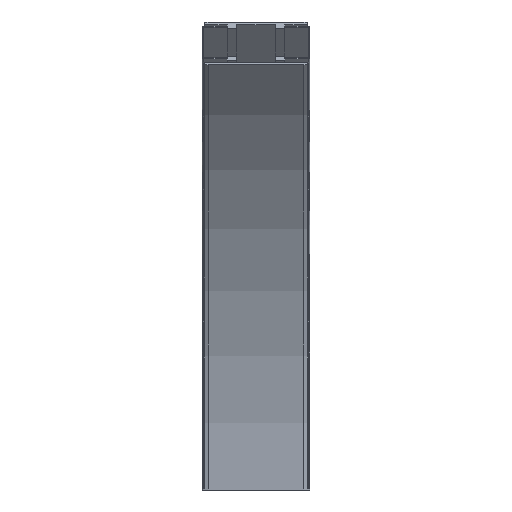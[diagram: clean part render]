
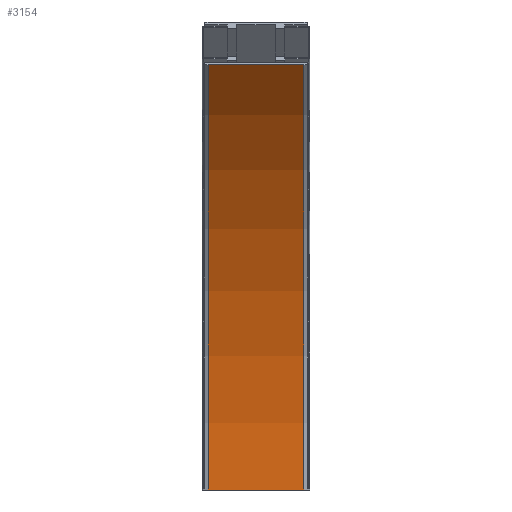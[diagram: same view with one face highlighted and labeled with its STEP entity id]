
A CAD part, front view. The second image highlights one B-rep face of the part: STEP entity #3154.
In plain terms, the highlighted cylindrical face has radius 817.5 mm (diameter 1635 mm), a partial arc.
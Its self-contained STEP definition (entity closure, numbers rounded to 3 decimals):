
#3096=CARTESIAN_POINT('',(104.,-313.44,578.06));
#3097=VERTEX_POINT('',#3096);
#3104=CARTESIAN_POINT('',(104.,-74.,0.0));
#3105=VERTEX_POINT('',#3104);
#3106=CARTESIAN_POINT('',(104.,-891.5,0.0));
#3107=DIRECTION('',(1.0,0.0,0.0));
#3108=DIRECTION('',(0.0,1.0,0.0));
#3109=AXIS2_PLACEMENT_3D('',#3106,#3107,#3108);
#3110=CIRCLE('',#3109,817.5);
#3111=EDGE_CURVE('',#3105,#3097,#3110,.T.);
#3123=CARTESIAN_POINT('',(39.,-891.5,0.0));
#3124=DIRECTION('',(1.0,0.0,0.0));
#3125=DIRECTION('',(0.0,1.0,0.0));
#3126=AXIS2_PLACEMENT_3D('',#3123,#3124,#3125);
#3127=CYLINDRICAL_SURFACE('',#3126,817.5);
#3128=CARTESIAN_POINT('',(-26.,-313.44,578.06));
#3129=VERTEX_POINT('',#3128);
#3130=CARTESIAN_POINT('',(104.0,-313.44,578.06));
#3131=DIRECTION('',(-1.0,0.0,0.0));
#3132=VECTOR('',#3131,130.);
#3133=LINE('',#3130,#3132);
#3134=EDGE_CURVE('',#3097,#3129,#3133,.T.);
#3135=ORIENTED_EDGE('',*,*,#3134,.T.);
#3136=CARTESIAN_POINT('',(-26.,-74.,0.0));
#3137=VERTEX_POINT('',#3136);
#3138=CARTESIAN_POINT('',(-26.,-891.5,0.0));
#3139=DIRECTION('',(1.0,0.0,0.0));
#3140=DIRECTION('',(0.0,1.0,0.0));
#3141=AXIS2_PLACEMENT_3D('',#3138,#3139,#3140);
#3142=CIRCLE('',#3141,817.5);
#3143=EDGE_CURVE('',#3137,#3129,#3142,.T.);
#3144=ORIENTED_EDGE('',*,*,#3143,.F.);
#3145=CARTESIAN_POINT('',(-26.,-74.,0.0));
#3146=DIRECTION('',(1.0,0.0,0.0));
#3147=VECTOR('',#3146,130.);
#3148=LINE('',#3145,#3147);
#3149=EDGE_CURVE('',#3137,#3105,#3148,.T.);
#3150=ORIENTED_EDGE('',*,*,#3149,.T.);
#3151=ORIENTED_EDGE('',*,*,#3111,.T.);
#3152=EDGE_LOOP('',(#3135,#3144,#3150,#3151));
#3153=FACE_OUTER_BOUND('',#3152,.T.);
#3154=ADVANCED_FACE('',(#3153),#3127,.F.);
